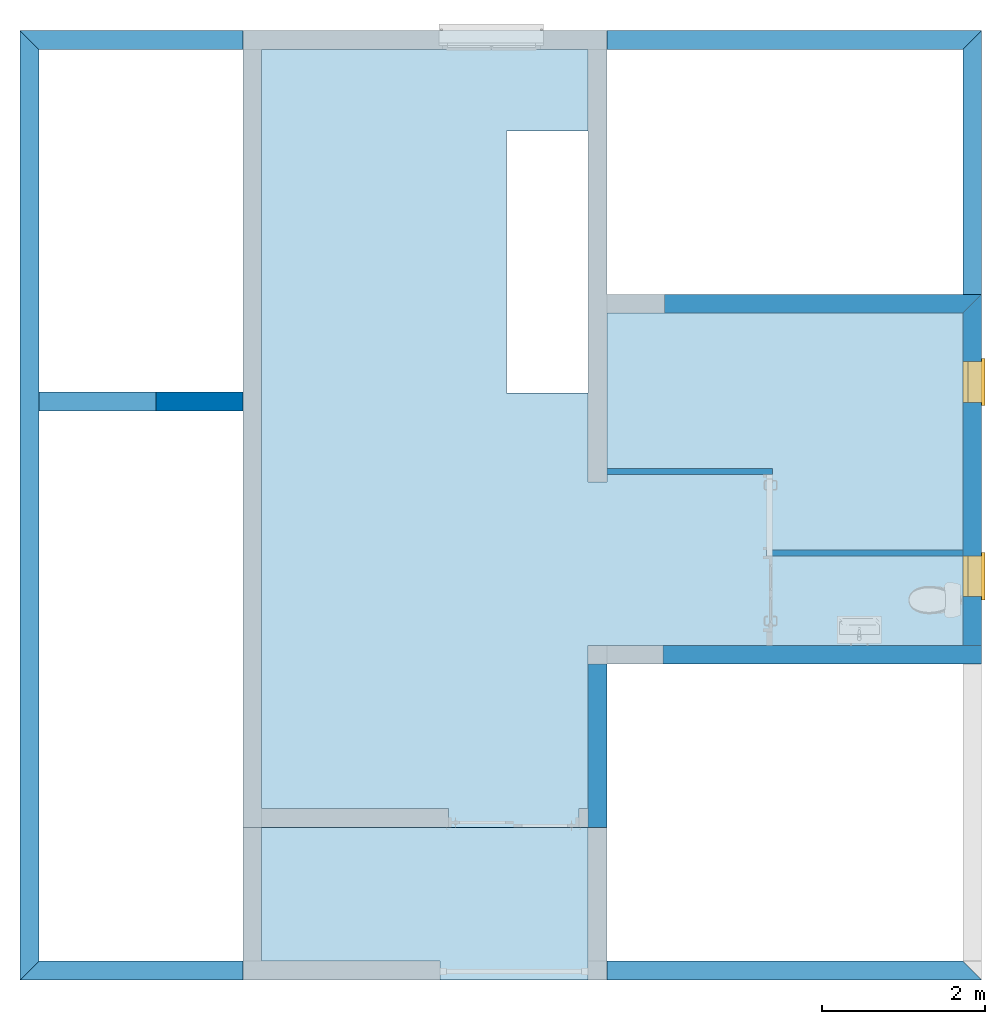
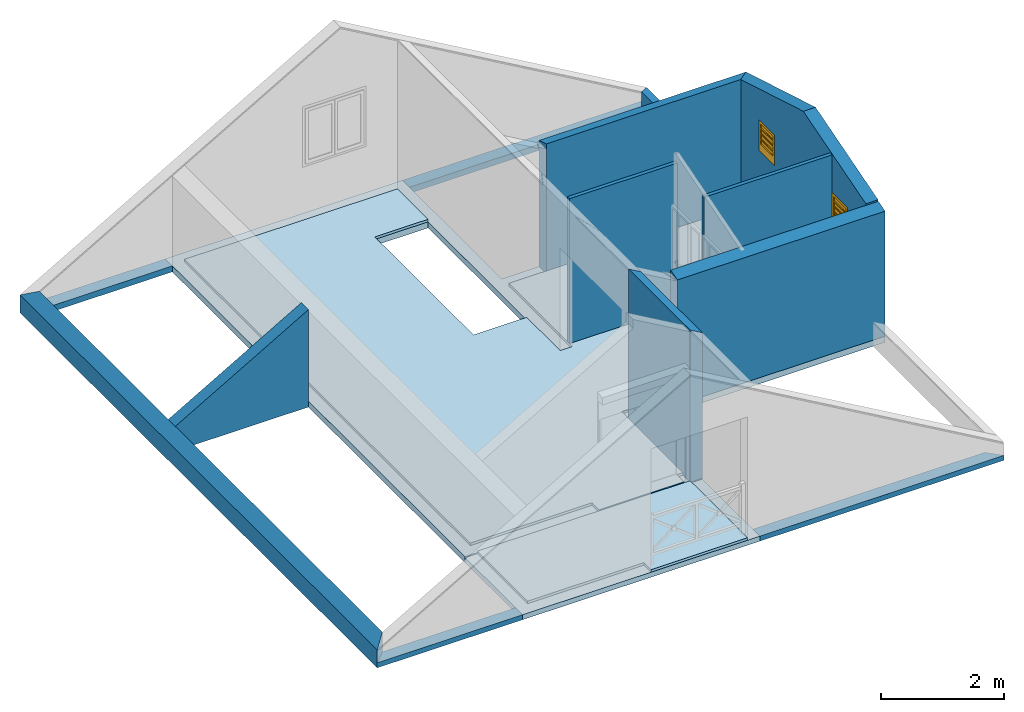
# One storey, part 1 of 8: 13 walls, 4 slabs, 2 windows, 3 openings.
"""IFC2X3 building model written with IfcOpenShell, lengths in metres."""

from ifc_helpers import new_model, entity, si_unit, converted_unit, derived_unit, money_unit, direction, frame, origin_with_axes, place, context, subcontext, project, spatial, polyline, outline, extrude, boolean, clip, halfspace, bounded_halfspace, faceted_brep, source, transform, mapped, material, layer, layer_set, layer_usage, type_object, element, fill, save


model = new_model("IFC2X3")

# Units and contexts
model_context = context("Model", 3, precision=1e-05, world=origin_with_axes(), true_north=direction((0.0, 1.0)))
body_context = subcontext(model_context, "Body", "Model", "MODEL_VIEW")
ifc_project = project(units=[si_unit("LENGTHUNIT", "METRE"), si_unit("AREAUNIT", "SQUARE_METRE"), si_unit("VOLUMEUNIT", "CUBIC_METRE"), converted_unit("PLANEANGLEUNIT", "DEGREE", entity("IfcPlaneAngleMeasure", 0.0174532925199), si_unit("PLANEANGLEUNIT", "RADIAN"), dimensions=[0, 0, 0, 0, 0, 0, 0]), si_unit("SOLIDANGLEUNIT", "STERADIAN"), money_unit("CHF"), converted_unit("TIMEUNIT", "Year", entity("IfcTimeMeasure", 31556926.0), si_unit("TIMEUNIT", "SECOND"), dimensions=[0, 0, 1, 0, 0, 0, 0]), si_unit("MASSUNIT", "GRAM", prefix="KILO"), si_unit("THERMODYNAMICTEMPERATUREUNIT", "DEGREE_CELSIUS"), si_unit("LUMINOUSINTENSITYUNIT", "LUMEN"), si_unit("ENERGYUNIT", "JOULE", prefix="MEGA"), derived_unit("THERMALCONDUCTANCEUNIT", [(si_unit("POWERUNIT", "WATT"), 1), (si_unit("LENGTHUNIT", "METRE"), -1), (si_unit("THERMODYNAMICTEMPERATUREUNIT", "KELVIN"), -1)]), derived_unit("SPECIFICHEATCAPACITYUNIT", [(si_unit("ENERGYUNIT", "JOULE"), 1), (si_unit("MASSUNIT", "GRAM", prefix="KILO"), -1), (si_unit("THERMODYNAMICTEMPERATUREUNIT", "KELVIN"), -1)]), derived_unit("MASSDENSITYUNIT", [(si_unit("MASSUNIT", "GRAM", prefix="KILO"), 1), (si_unit("VOLUMEUNIT", "CUBIC_METRE"), -1)])], contexts=[model_context])

# Site, building, storey
site_placement = place(None, origin_with_axes())
site = spatial("IfcSite", under=ifc_project, at=site_placement, Name="Site", CompositionType="ELEMENT")
building_placement = place(site_placement, origin_with_axes())
building = spatial("IfcBuilding", under=site, at=building_placement, Name="Bâtiment", CompositionType="ELEMENT")
storey_placement = place(building_placement, frame((0.0, 0.0, 6.0), z_axis=(0.0, 0.0, 1.0), x_axis=(1.0, 0.0, 0.0)))
storey = spatial("IfcBuildingStorey", under=building, at=storey_placement, Name="COMBLES", CompositionType="ELEMENT", Elevation=6.0)

# Slab
ifc_material_1 = material(Name="Hachure solide 2628782308")
ifc_layer_1 = layer(ifc_material_1, 0.1, ventilated="UNKNOWN")
ifc_layer_set_1 = layer_set([ifc_layer_1], Name="Hachure solide 2628782308 0.1")
ifc_layer_usage_1 = layer_usage(ifc_layer_set_1, "AXIS3", "NEGATIVE", 0.1)
slab_type_1 = type_object("IfcSlabType", Name="Hachure solide 2628782308 100", PredefinedType="FLOOR")
slab_1_placement = place(storey_placement, frame((87.5135190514, 7.18034105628, -3.39), z_axis=(0.0, 0.0, 1.0), x_axis=(1.0, 0.0, 0.0)))
element("IfcSlab", 1, at=slab_1_placement, inside=storey, type_object=slab_type_1, material=ifc_layer_usage_1, Name="Dalle-009", PredefinedType="FLOOR", context=body_context, shape_type="SweptSolid", body=[
    extrude(outline(polyline([(0.0, 0.0), (4.46, 0.0), (4.46, 1.86892554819), (0.0, 1.86892554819), (0.0, 0.0)])), frame((0.0, 0.0, -0.1), z_axis=(0.0, 0.0, 1.0), x_axis=(1.0, 0.0, 0.0)), (0.0, 0.0, 1.0), 0.1),
])

# Slab, opening
ifc_layer_2 = layer(ifc_material_1, 0.12, ventilated="UNKNOWN")
ifc_layer_set_2 = layer_set([ifc_layer_2], Name="Hachure solide 2628782308 0.12")
ifc_layer_usage_2 = layer_usage(ifc_layer_set_2, "AXIS3", "NEGATIVE", 0.12)
slab_type_2 = type_object("IfcSlabType", Name="Hachure solide 2628782308 120", PredefinedType="FLOOR")
slab_2_placement = place(storey_placement, frame((87.5135191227, 18.8103410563, -3.37), z_axis=(0.0, 0.0, 1.0), x_axis=(1.0, 0.0, 0.0)))
slab_2 = element("IfcSlab", 2, at=slab_2_placement, inside=storey, type_object=slab_type_2, material=ifc_layer_usage_2, Name="Dalle-009", PredefinedType="FLOOR", context=body_context, shape_type="SweptSolid", body=[
    extrude(outline(polyline([(0.0, 0.0), (0.0, -9.76107445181), (4.46, -9.76107445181), (4.46000005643, -7.76000002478), (9.0499999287, -7.76000002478), (9.0499999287, -3.23000005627), (4.46000005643, -3.23000005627), (4.46000005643, 0.0), (0.0, 0.0)])), frame((0.0, 0.0, -0.12), z_axis=(0.0, 0.0, 1.0), x_axis=(1.0, 0.0, 0.0)), (0.0, 0.0, 1.0), 0.12),
])
opening_1_placement = place(slab_2_placement, frame((3.23, -1.23, 0.0), z_axis=(0.0, 0.0, 1.0), x_axis=(0.0, -1.0, 0.0)))
element("IfcOpeningElement", 3, at=opening_1_placement, cuts=slab_2, Name="Ouverture de dalle", context=body_context, shape_type="SweptSolid", body=[
    extrude(outline(polyline([(0.0, 0.0), (3.20999996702, 0.0), (3.20999996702, 1.0), (0.0, 1.0), (0.0, 0.0)])), frame((0.0, 0.0, -0.12), z_axis=(0.0, 0.0, 1.0), x_axis=(1.0, 0.0, 0.0)), (0.0, 0.0, 1.0), 0.12),
])

# Slabs
ifc_material_2 = material(Name="Struct. - Chape")
ifc_layer_3 = layer(ifc_material_2, 0.05, ventilated="UNKNOWN")
ifc_layer_set_3 = layer_set([ifc_layer_3], Name="Struct. - Chape 0.05")
ifc_layer_usage_3 = layer_usage(ifc_layer_set_3, "AXIS3", "NEGATIVE", 0.05)
slab_type_3 = type_object("IfcSlabType", Name="Struct. - Chape 50", PredefinedType="FLOOR")
slab_3_placement = place(storey_placement, frame((87.7435190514, 18.5803410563, -3.32), z_axis=(0.0, 0.0, 1.0), x_axis=(1.0, 0.0, 0.0)))
element("IfcSlab", 4, at=slab_3_placement, inside=storey, type_object=slab_type_3, material=ifc_layer_usage_3, Name="Dalle-012", PredefinedType="FLOOR", context=body_context, shape_type="SweptSolid", body=[
    extrude(outline(polyline([(0.0, 0.0), (0.0, -9.30107445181), (2.286535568, -9.30107445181), (2.286535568, -9.53107445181), (3.886535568, -9.53107445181), (3.886535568, -9.30107445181), (4.0, -9.30107445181), (4.0, -7.29999996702), (8.59, -7.29999999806), (8.59, -3.23), (4.23, -3.23), (4.23, -5.3), (4.0, -5.3), (4.0000000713, -4.20999996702), (3.0000000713, -4.20999996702), (3.0, -1.0), (4.0, -1.0), (4.0, 0.0), (0.0, 0.0)])), frame((0.0, 0.0, -0.05), z_axis=(0.0, 0.0, 1.0), x_axis=(1.0, 0.0, 0.0)), (0.0, 0.0, 1.0), 0.05),
])
ifc_layer_usage_4 = layer_usage(ifc_layer_set_3, "AXIS3", "NEGATIVE", 0.05)
slab_4_placement = place(storey_placement, frame((87.7435190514, 7.41034105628, -3.34), z_axis=(0.0, 0.0, 1.0), x_axis=(1.0, 0.0, 0.0)))
element("IfcSlab", 5, at=slab_4_placement, inside=storey, type_object=slab_type_3, material=ifc_layer_usage_4, Name="Dalle-013", PredefinedType="FLOOR", context=body_context, shape_type="SweptSolid", body=[
    extrude(outline(polyline([(0.0, 0.0), (2.185, 0.0), (2.185, -0.23), (4.0, -0.23), (4.0, 1.63892554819), (0.0, 1.63892554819), (0.0, 0.0)])), frame((0.0, 0.0, -0.05), z_axis=(0.0, 0.0, 1.0), x_axis=(1.0, 0.0, 0.0)), (0.0, 0.0, 1.0), 0.05),
])

# Walls
wall_type_1 = type_object("IfcWallType", Name="Hachure solide 2628782308 230", PredefinedType="NOTDEFINED")
wall_1_placement = place(storey_placement, frame((92.6591626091, 11.0503410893, -3.39), z_axis=(0.0, 0.0, 1.0), x_axis=(1.0, -8.44784118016e-09, 0.0)))
element("IfcWall", 6, at=wall_1_placement, inside=storey, type_object=wall_type_1, material=ifc_material_1, Name="MurExt-017", context=body_context, shape_type="CSG", body=[
    boolean("DIFFERENCE", boolean("DIFFERENCE", clip(extrude(outline(polyline([(0.0, 0.0), (3.90435644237, 0.0), (3.90435644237, 0.23), (0.0, 0.23), (0.0, 0.0)])), origin_with_axes(), (0.0, 0.0, 1.0), 2.56), halfspace(frame((5.7618477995e-09, -0.682049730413, 2.30256130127), z_axis=(-2.39931652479e-09, 0.284015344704, -0.958819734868), x_axis=(0.0, 0.958819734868, 0.284015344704)), True)), faceted_brep([(3.90435644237, 3.29833831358e-08, 2.52459363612), (3.90435644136, 0.119529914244, 2.56), (3.90435644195, 0.0491111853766, 2.56), (3.90435644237, 3.29833831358e-08, 2.54545261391), (-1.00976649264e-09, 0.119529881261, 2.56), (0.0, -8.05190580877e-10, 2.52459363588), (-4.14871692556e-10, 0.0491111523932, 2.56), (0.0, -3.30826921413e-10, 2.54545261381)], [[[0, 1, 2, 3]], [[4, 1, 0, 5]], [[1, 4, 6, 2]], [[3, 2, 6, 7]], [[5, 0, 3, 7]], [[4, 5, 7, 6]]])), faceted_brep([(-1.94299332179e-09, 0.23, 0.02), (3.90435644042, 0.230000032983, 0.02), (3.90435644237, 0.23, 0.0), (0.0, 0.23, 0.0), (3.90435644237, -2.47797427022e-08, 0.02), (0.0, -5.77631258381e-08, 0.02), (3.90435644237, 0.0, 0.0), (0.0, 0.0, 0.0)], [[[0, 1, 2, 3]], [[4, 1, 0, 5]], [[1, 4, 6, 2]], [[6, 7, 3, 2]], [[5, 0, 3, 7]], [[4, 5, 7, 6]]])),
])
ifc_layer_4 = layer(ifc_material_1, 0.23, ventilated="UNKNOWN")
ifc_layer_set_4 = layer_set([ifc_layer_4], Name="Hachure solide 2628782308 0.23")
ifc_layer_usage_5 = layer_usage(ifc_layer_set_4, "AXIS2", "POSITIVE", 0.0)
wall_2_placement = place(storey_placement, frame((91.9735190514, 9.04926660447, -3.37), z_axis=(0.0, 0.0, 1.0), x_axis=(0.0, 1.0, 0.0)))
element("IfcWallStandardCase", 7, at=wall_2_placement, inside=storey, type_object=wall_type_1, material=ifc_layer_usage_5, Name="MurExt-015", context=body_context, shape_type="Clipping", body=[
    clip(extrude(outline(polyline([(0.0, 0.0), (2.00107448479, 0.0), (2.00107448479, 0.23), (0.0, 0.23), (0.0, 0.0)])), origin_with_axes(), (0.0, 0.0, 1.0), 3.2), halfspace(frame((0.0, -1.25090160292, 2.16662513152), z_axis=(0.0, 0.5, -0.866025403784), x_axis=(0.0, 0.866025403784, 0.5)), True)),
])
ifc_layer_usage_6 = layer_usage(ifc_layer_set_4, "AXIS2", "POSITIVE", -0.23)
wall_3_placement = place(storey_placement, frame((92.6776186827, 15.5803410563, -3.37), z_axis=(0.0, 0.0, 1.0), x_axis=(1.0, 0.0, 0.0)))
element("IfcWallStandardCase", 8, at=wall_3_placement, inside=storey, type_object=wall_type_1, material=ifc_layer_usage_6, Name="MurExt-015", context=body_context, shape_type="Clipping", body=[
    clip(extrude(outline(polyline([(0.0, -0.23), (3.65590036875, -0.23), (3.88590036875, 0.0), (0.0, 0.0), (0.0, -0.23)])), origin_with_axes(), (0.0, 0.0, 1.0), 3.0), halfspace(frame((0.0, 0.68204972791, 2.30256129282), z_axis=(0.0, -0.284015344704, -0.958819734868), x_axis=(0.0, 0.958819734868, -0.284015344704)), True)),
])
ifc_layer_usage_7 = layer_usage(ifc_layer_set_4, "AXIS2", "POSITIVE", -0.23)
wall_4_placement = place(storey_placement, frame((96.3335190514, 15.5803410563, -3.49), z_axis=(0.0, 0.0, 1.0), x_axis=(0.0, 1.0, 0.0)))
element("IfcWallStandardCase", 9, at=wall_4_placement, inside=storey, type_object=wall_type_1, material=ifc_layer_usage_7, Name="MurExt-018", context=body_context, shape_type="Clipping", body=[
    clip(extrude(outline(polyline([(0.0, -0.23), (3.23, -0.23), (3.0, 0.0), (0.0, 0.0), (0.0, -0.23)])), origin_with_axes(), (0.0, 0.0, 1.0), 0.5), halfspace(frame((0.0, -0.212863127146, 0.368689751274), z_axis=(0.0, 0.5, -0.866025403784), x_axis=(0.0, 0.866025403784, 0.5)), True)),
])
ifc_layer_usage_8 = layer_usage(ifc_layer_set_4, "AXIS2", "NEGATIVE", 0.0)
wall_5_placement = place(storey_placement, frame((84.7835190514, 7.41034105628, -3.49), z_axis=(0.0, 0.0, 1.0), x_axis=(0.0, 1.0, 0.0)))
element("IfcWallStandardCase", 10, at=wall_5_placement, inside=storey, type_object=wall_type_1, material=ifc_layer_usage_8, Name="MurExt-018", context=body_context, shape_type="Clipping", body=[
    clip(extrude(outline(polyline([(0.0, -0.23), (11.1700000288, -0.23), (11.4000000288, 0.0), (-0.23, 0.0), (0.0, -0.23)])), origin_with_axes(), (0.0, 0.0, 1.0), 0.5), halfspace(frame((0.0, 0.155363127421, 0.269096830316), z_axis=(0.0, -0.5, -0.866025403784), x_axis=(0.0, 0.866025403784, -0.5)), True)),
])
ifc_layer_usage_9 = layer_usage(ifc_layer_set_4, "AXIS2", "POSITIVE", -0.23)
wall_6_placement = place(storey_placement, frame((84.7835190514, 7.41034105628, -3.49), z_axis=(0.0, 0.0, 1.0), x_axis=(1.0, 0.0, 0.0)))
element("IfcWallStandardCase", 11, at=wall_6_placement, inside=storey, type_object=wall_type_1, material=ifc_layer_usage_9, Name="MurExt-004", context=body_context, shape_type="SweptSolid", body=[
    extrude(outline(polyline([(0.0, -0.23), (2.73, -0.23), (2.73, 0.0), (0.23, 0.0), (0.0, -0.23)])), origin_with_axes(), (0.0, 0.0, 1.0), 0.1),
])
ifc_layer_usage_10 = layer_usage(ifc_layer_set_4, "AXIS2", "POSITIVE", -0.23)
wall_7_placement = place(storey_placement, frame((91.9735190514, 7.41034105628, -3.49), z_axis=(0.0, 0.0, 1.0), x_axis=(1.0, 0.0, 0.0)))
element("IfcWallStandardCase", 12, at=wall_7_placement, inside=storey, type_object=wall_type_1, material=ifc_layer_usage_10, Name="MurExt-004", context=body_context, shape_type="SweptSolid", body=[
    extrude(outline(polyline([(0.0, -0.23), (4.59, -0.23), (4.36, 0.0), (0.0, 0.0), (0.0, -0.23)])), origin_with_axes(), (0.0, 0.0, 1.0), 0.1),
])
ifc_layer_usage_11 = layer_usage(ifc_layer_set_4, "AXIS2", "POSITIVE", 0.0)
wall_8_placement = place(storey_placement, frame((85.0135190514, 14.1503410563, -3.49), z_axis=(0.0, 0.0, 1.0), x_axis=(1.0, 0.0, 0.0)))
element("IfcWallStandardCase", 13, at=wall_8_placement, inside=storey, type_object=wall_type_1, material=ifc_layer_usage_11, Name="MurExt-016", context=body_context, shape_type="Clipping", body=[
    clip(extrude(outline(polyline([(0.0, 0.0), (2.5, 0.0), (2.5, 0.23), (0.0, 0.23), (0.0, 0.0)])), origin_with_axes(), (0.0, 0.0, 1.0), 2.02397860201), halfspace(frame((-0.212863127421, 0.0, 0.368689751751), z_axis=(0.5, 0.0, -0.866025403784), x_axis=(0.0, 1.0, 0.0)), True)),
])
ifc_layer_usage_12 = layer_usage(ifc_layer_set_4, "AXIS2", "NEGATIVE", 0.23)
wall_9_placement = place(storey_placement, frame((84.7835190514, 18.5803410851, -3.49), z_axis=(0.0, 0.0, 1.0), x_axis=(1.0, 0.0, 0.0)))
element("IfcWallStandardCase", 14, at=wall_9_placement, inside=storey, type_object=wall_type_1, material=ifc_layer_usage_12, Name="MurExt-004", context=body_context, shape_type="SweptSolid", body=[
    extrude(outline(polyline([(0.23, 0.0), (2.73, 0.0), (2.73, 0.23), (0.0, 0.23), (0.23, 0.0)])), origin_with_axes(), (0.0, 0.0, 1.0), 0.12),
])
ifc_layer_usage_13 = layer_usage(ifc_layer_set_4, "AXIS2", "POSITIVE", -0.23)
wall_10_placement = place(storey_placement, frame((96.3335190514, 18.5803410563, -3.49), z_axis=(0.0, 0.0, 1.0), x_axis=(-1.0, 0.0, 0.0)))
element("IfcWallStandardCase", 15, at=wall_10_placement, inside=storey, type_object=wall_type_1, material=ifc_layer_usage_13, Name="MurExt-004", context=body_context, shape_type="SweptSolid", body=[
    extrude(outline(polyline([(-0.23, -0.23), (4.36, -0.23), (4.36, 0.0), (0.0, 0.0), (-0.23, -0.23)])), origin_with_axes(), (0.0, 0.0, 1.0), 0.12),
])
wall_type_2 = type_object("IfcWallType", Name="Hachure solide 2628782308 70", PredefinedType="NOTDEFINED")
wall_11_placement = place(storey_placement, frame((93.9988033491, 12.3751889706, -3.37), z_axis=(0.0, 0.0, 1.0), x_axis=(1.0, 0.0, 0.0)))
element("IfcWall", 16, at=wall_11_placement, inside=storey, type_object=wall_type_2, material=ifc_material_1, Name="MurExt-013", context=body_context, shape_type="CSG", body=[
    boolean("DIFFERENCE", extrude(outline(polyline([(-0.07, 0.0), (2.33471570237, 0.0), (2.33471570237, 0.07), (-0.07, 0.07), (-0.07, 0.0)])), origin_with_axes(), (0.0, 0.0, 1.0), 2.8788335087), faceted_brep([(-0.07, 0.07, 0.05), (2.33471570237, 0.07, 0.05), (2.33471570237, 0.07, 0.0), (-0.07, 0.07, 0.0), (2.33471570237, 0.0, 0.05), (-0.07, 0.0, 0.05), (2.33471570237, 0.0, 0.0), (-0.07, 0.0, 0.0)], [[[0, 1, 2, 3]], [[4, 1, 0, 5]], [[1, 4, 6, 2]], [[6, 7, 3, 2]], [[5, 0, 3, 7]], [[4, 5, 7, 6]]])),
])
wall_12_placement = place(storey_placement, frame((91.9735190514, 13.3751889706, -3.32), z_axis=(0.0, 0.0, 1.0), x_axis=(1.0, 0.0, 0.0)))
element("IfcWall", 17, at=wall_12_placement, inside=storey, type_object=wall_type_2, material=ifc_material_1, Name="MurExt-004", context=body_context, shape_type="CSG", body=[
    boolean("DIFFERENCE", extrude(outline(polyline([(-0.23, 0.0), (2.02528429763, 0.0), (2.02528429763, 0.07), (-0.23, 0.07), (-0.23, 0.0)])), origin_with_axes(), (0.0, 0.0, 1.0), 2.8788335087), faceted_brep([(0.0, 0.0, 2.8788335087), (0.0, 0.07, 2.8788335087), (-0.23, 0.07, 2.8788335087), (-0.23, 0.0, 2.8788335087), (0.0, 0.07, 0.0), (0.0, 0.0, 0.0), (-0.23, 0.07, 0.0), (-0.23, 0.0, 0.0)], [[[0, 1, 2, 3]], [[4, 1, 0, 5]], [[1, 4, 6, 2]], [[2, 6, 7, 3]], [[5, 0, 3, 7]], [[4, 5, 7, 6]]])),
])

# Wall, openings, windows
wall_type_3 = type_object("IfcWallType", Name="Hachure solide 2628782308 230 - 230", PredefinedType="NOTDEFINED")
wall_13_placement = place(storey_placement, frame((96.5635190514, 15.5803410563, -3.37), z_axis=(0.0, 0.0, 1.0), x_axis=(0.0, -1.0, 0.0)))
wall_13 = element("IfcWall", 18, at=wall_13_placement, inside=storey, type_object=wall_type_3, material=ifc_material_1, Name="MurExt-018", context=body_context, shape_type="Clipping", body=[
    clip(clip(clip(clip(extrude(outline(polyline([(0.23, -0.23), (4.29999999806, -0.23), (4.29999999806, 0.0), (0.0, 0.0), (0.23, -0.23)])), origin_with_axes(), (0.0, 0.0, 1.0), 3.2), bounded_halfspace(frame((1.04746089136, 0.0, 3.5361687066), z_axis=(-0.284015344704, 0.0, -0.958819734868), x_axis=(0.0, 1.0, 0.0)), True, origin_with_axes(), polyline([(2.26499999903, -0.24), (4.87500999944, -0.24), (4.87500999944, 0.01), (2.26499999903, 0.01), (2.26499999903, -0.24)]))), bounded_halfspace(frame((1.04746089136, 0.0, 3.5361687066), z_axis=(-0.284015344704, 0.0, -0.958819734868), x_axis=(0.0, 1.0, 0.0)), True, origin_with_axes(), polyline([(2.26499999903, -0.24), (4.87500999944, -0.24), (4.87500999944, 0.01), (2.26499999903, 0.01), (2.26499999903, -0.24)]))), bounded_halfspace(frame((-0.68204972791, 0.0, 2.30256129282), z_axis=(0.284015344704, 0.0, -0.958819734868), x_axis=(0.0, 1.0, 0.0)), True, origin_with_axes(), polyline([(-0.345010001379, -0.24), (2.26499999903, -0.24), (2.26499999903, 0.01), (-0.345010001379, 0.01), (-0.345010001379, -0.24)]))), bounded_halfspace(frame((-0.68204972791, 0.0, 2.30256129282), z_axis=(0.284015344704, 0.0, -0.958819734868), x_axis=(0.0, 1.0, 0.0)), True, origin_with_axes(), polyline([(-0.345010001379, -0.24), (2.26499999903, -0.24), (2.26499999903, 0.01), (-0.345010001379, 0.01), (-0.345010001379, -0.24)]))),
])
opening_2_placement = place(wall_13_placement, frame((3.45515208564, 0.0, 1.62959031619), z_axis=(0.0, 0.0, 1.0), x_axis=(1.0, 0.0, 0.0)))
opening_2 = element("IfcOpeningElement", 19, at=opening_2_placement, cuts=wall_13, Name="Fen-032", context=body_context, shape_type="SweptSolid", body=[
    extrude(outline(polyline([(0.25, 0.1), (-0.25, 0.1), (-0.25, -0.5), (0.25, -0.5), (0.25, 0.1)])), frame((0.0, -1.92, 0.0), z_axis=(0.0, -1.0, 0.0), x_axis=(-1.0, 0.0, 0.0)), (0.0, 0.0, -1.0), 3.38),
])
opening_3_placement = place(wall_13_placement, frame((1.07484791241, 0.0, 1.62959031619), z_axis=(0.0, 0.0, 1.0), x_axis=(1.0, 0.0, 0.0)))
opening_3 = element("IfcOpeningElement", 20, at=opening_3_placement, cuts=wall_13, Name="Fen-033", context=body_context, shape_type="SweptSolid", body=[
    extrude(outline(polyline([(0.25, 0.1), (-0.25, 0.1), (-0.25, -0.5), (0.25, -0.5), (0.25, 0.1)])), frame((0.0, -1.92, 0.0), z_axis=(0.0, -1.0, 0.0), x_axis=(-1.0, 0.0, 0.0)), (0.0, 0.0, -1.0), 3.38),
])
window_style = type_object("IfcWindowStyle", Name="Baie_fixe", ConstructionType="NOTDEFINED", OperationType="NOTDEFINED", ParameterTakesPrecedence=False, Sizeable=False)
shared_shape = source(origin_with_axes(), body_context, "Body", "Brep", [
    faceted_brep([(0.25, -0.23, -0.1), (0.2, -0.23, -0.1), (0.2, -0.17, -0.1), (0.25, -0.17, -0.1), (0.25, -0.23, 0.5), (-0.25, -0.23, 0.5), (-0.25, -0.23, -0.1), (-0.2, -0.23, -0.1), (-0.2, -0.23, 0.05), (-0.2, -0.23, 0.45), (0.2, -0.23, 0.45), (0.2, -0.23, 0.05), (0.2, -0.17, 0.05), (0.2, -0.17, 0.45), (-0.2, -0.17, 0.45), (-0.2, -0.17, 0.05), (-0.2, -0.17, -0.1), (-0.25, -0.17, -0.1), (-0.25, -0.17, 0.5), (0.25, -0.17, 0.5)], [[[0, 1, 2, 3]], [[0, 4, 5, 6, 7, 8, 9, 10, 11, 1]], [[1, 11, 12, 2]], [[3, 2, 12, 13, 14, 15, 16, 17, 18, 19]], [[4, 0, 3, 19]], [[5, 4, 19, 18]], [[6, 5, 18, 17]], [[7, 6, 17, 16]], [[8, 7, 16, 15]], [[9, 8, 15, 14]], [[10, 9, 14, 13]], [[11, 10, 13, 12]]]),
    faceted_brep([(-0.2, -0.23, -0.1), (-0.2, -0.23, 0.05), (-0.2, -0.17, 0.05), (-0.2, -0.17, -0.1), (0.2, -0.23, -0.1), (0.2, -0.23, 0.05), (0.2, -0.17, 0.05), (0.2, -0.17, -0.1)], [[[0, 1, 2, 3]], [[0, 4, 5, 1]], [[1, 5, 6, 2]], [[3, 2, 6, 7]], [[4, 0, 3, 7]], [[5, 4, 7, 6]]]),
    faceted_brep([(-0.2, -0.2125, 0.05), (-0.2, -0.2125, 0.4499), (-0.2, -0.2075, 0.4499), (-0.2, -0.2075, 0.05), (0.2, -0.2125, 0.05), (0.2, -0.2125, 0.4499), (0.2, -0.2075, 0.4499), (0.2, -0.2075, 0.05)], [[[0, 1, 2, 3]], [[0, 4, 5, 1]], [[1, 5, 6, 2]], [[3, 2, 6, 7]], [[4, 0, 3, 7]], [[5, 4, 7, 6]]]),
    faceted_brep([(-0.2, -0.2125, 0.365), (-0.2, -0.2125, 0.345), (-0.2, -0.2275, 0.345), (-0.2, -0.2275, 0.365), (0.2, -0.2125, 0.365), (0.2, -0.2125, 0.345), (0.2, -0.2275, 0.345), (0.2, -0.2275, 0.365)], [[[0, 1, 2, 3]], [[4, 5, 1, 0]], [[2, 1, 5, 6]], [[3, 2, 6, 7]], [[7, 4, 0, 3]], [[7, 6, 5, 4]]]),
    faceted_brep([(-0.2, -0.2275, 0.24), (-0.2, -0.2275, 0.26), (-0.2, -0.2125, 0.26), (-0.2, -0.2125, 0.24), (0.2, -0.2275, 0.24), (0.2, -0.2275, 0.26), (0.2, -0.2125, 0.26), (0.2, -0.2125, 0.24)], [[[0, 1, 2, 3]], [[4, 5, 1, 0]], [[2, 1, 5, 6]], [[3, 2, 6, 7]], [[7, 4, 0, 3]], [[7, 6, 5, 4]]]),
    faceted_brep([(-0.2, -0.2125, 0.155), (-0.2, -0.2125, 0.135), (-0.2, -0.2275, 0.135), (-0.2, -0.2275, 0.155), (0.2, -0.2125, 0.155), (0.2, -0.2125, 0.135), (0.2, -0.2275, 0.135), (0.2, -0.2275, 0.155)], [[[0, 1, 2, 3]], [[4, 5, 1, 0]], [[2, 1, 5, 6]], [[3, 2, 6, 7]], [[7, 4, 0, 3]], [[7, 6, 5, 4]]]),
    faceted_brep([(-0.2, -0.1925, 0.365), (-0.2, -0.1925, 0.345), (-0.2, -0.2075, 0.345), (-0.2, -0.2075, 0.365), (0.2, -0.1925, 0.365), (0.2, -0.1925, 0.345), (0.2, -0.2075, 0.345), (0.2, -0.2075, 0.365)], [[[0, 1, 2, 3]], [[4, 5, 1, 0]], [[2, 1, 5, 6]], [[3, 2, 6, 7]], [[7, 4, 0, 3]], [[7, 6, 5, 4]]]),
    faceted_brep([(-0.2, -0.2075, 0.24), (-0.2, -0.2075, 0.26), (-0.2, -0.1925, 0.26), (-0.2, -0.1925, 0.24), (0.2, -0.2075, 0.24), (0.2, -0.2075, 0.26), (0.2, -0.1925, 0.26), (0.2, -0.1925, 0.24)], [[[0, 1, 2, 3]], [[4, 5, 1, 0]], [[2, 1, 5, 6]], [[3, 2, 6, 7]], [[7, 4, 0, 3]], [[7, 6, 5, 4]]]),
    faceted_brep([(-0.2, -0.1925, 0.155), (-0.2, -0.1925, 0.135), (-0.2, -0.2075, 0.135), (-0.2, -0.2075, 0.155), (0.2, -0.1925, 0.155), (0.2, -0.1925, 0.135), (0.2, -0.2075, 0.135), (0.2, -0.2075, 0.155)], [[[0, 1, 2, 3]], [[4, 5, 1, 0]], [[2, 1, 5, 6]], [[3, 2, 6, 7]], [[7, 4, 0, 3]], [[7, 6, 5, 4]]]),
    faceted_brep([(-0.25, -0.23, -0.1), (-0.25, -0.23, 0.0), (-0.25, -0.17, 0.0), (-0.25, -0.17, -0.1), (0.25, -0.23, -0.1), (0.25, -0.23, 0.0), (0.25, -0.17, 0.0), (0.25, -0.17, -0.1)], [[[0, 1, 2, 3]], [[0, 4, 5, 1]], [[1, 5, 6, 2]], [[3, 2, 6, 7]], [[4, 0, 3, 7]], [[5, 4, 7, 6]]]),
    faceted_brep([(-0.29, 0.04, -0.1), (-0.29, 0.0, -0.1), (-0.29, 0.0, -0.052380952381), (-0.29, 0.04, -0.06), (0.29, 0.04, -0.1), (0.29, 0.0, -0.1), (0.25, 0.0, -0.1), (0.25, -0.17, -0.1), (-0.25, -0.17, -0.1), (-0.25, 0.0, -0.1), (-0.25, 0.0, -0.052380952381), (-0.25, -0.17, -0.02), (0.25, -0.17, -0.02), (0.25, 0.0, -0.052380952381), (0.29, 0.0, -0.052380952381), (0.29, 0.04, -0.06)], [[[0, 1, 2, 3]], [[0, 4, 5, 6, 7, 8, 9, 1]], [[1, 9, 10, 2]], [[3, 2, 10, 11, 12, 13, 14, 15]], [[4, 0, 3, 15]], [[5, 4, 15, 14]], [[6, 5, 14, 13]], [[7, 6, 13, 12]], [[8, 7, 12, 11]], [[9, 8, 11, 10]]]),
])
window_1_placement = place(opening_2_placement, frame((-0.25, 0.0, 0.0), z_axis=(0.0, 0.0, 1.0), x_axis=(1.0, 0.0, 0.0)))
window_1 = element("IfcWindow", 21, at=window_1_placement, inside=storey, type_object=window_style, Name="Fen-032", OverallHeight=0.5, OverallWidth=0.5, context=body_context, shape_type="MappedRepresentation", body=[
    mapped(shared_shape, transform((0.25, 0.0, 0.0))),
])
fill(opening_2, window_1)
window_2_placement = place(opening_3_placement, frame((-0.25, 0.0, 0.0), z_axis=(0.0, 0.0, 1.0), x_axis=(1.0, 0.0, 0.0)))
window_2 = element("IfcWindow", 22, at=window_2_placement, inside=storey, type_object=window_style, Name="Fen-033", OverallHeight=0.5, OverallWidth=0.5, context=body_context, shape_type="MappedRepresentation", body=[
    mapped(shared_shape, transform((0.25, 0.0, 0.0))),
])
fill(opening_3, window_2)

save(model, "model.ifc")
